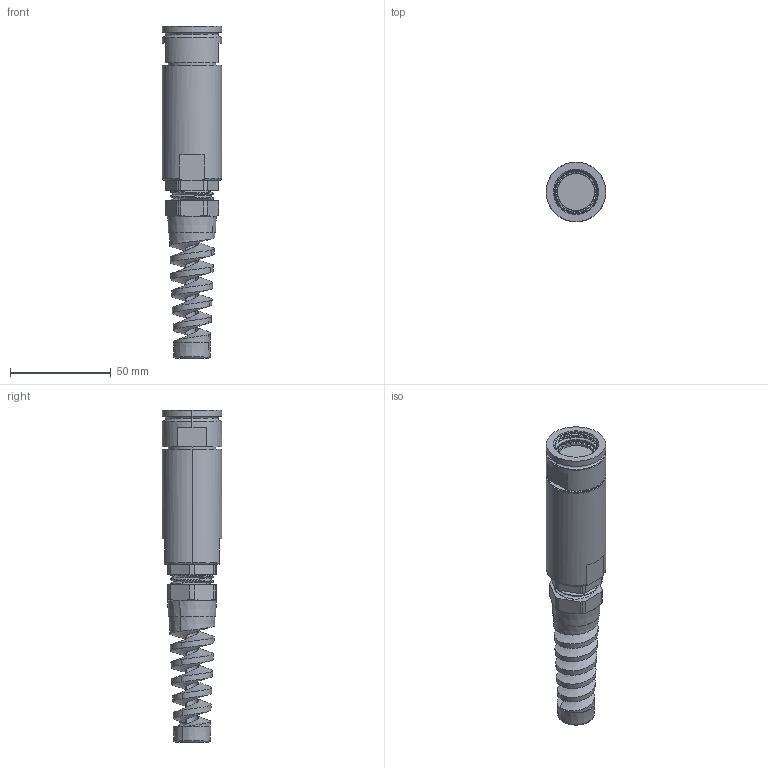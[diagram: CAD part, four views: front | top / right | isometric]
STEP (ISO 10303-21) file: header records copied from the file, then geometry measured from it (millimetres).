
FILE_DESCRIPTION (( 'STEP AP214' ), '1' );
FILE_NAME ('Q38SHELL-STX-15-XXXX-GB.STEP', '2025-09-09T22:14:07', ( '' ), ( '' ), 'SwSTEP 2.0', 'SolidWorks 2024', '' );
FILE_SCHEMA (( 'AUTOMOTIVE_DESIGN' ));
Length unit declared in the file: millimetre
Products named in the file (1): Q38SHELL-STX-15-XXXX-GB
Bounding box: 29.54 x 29.54 x 164.72 mm (x, y, z)
Volume: 69911.4 mm3; surface area: 20420.3 mm2
Topology: 2 solids, 2 shells, 263 faces, 834 edges, 589 vertices
Faces by surface type: plane 136, cylinder 69, cone 38, torus 13, bspline 7
Entity records: 14334 total; most frequent: CARTESIAN_POINT 7427, ORIENTED_EDGE 1668, DIRECTION 1235, EDGE_CURVE 834, VERTEX_POINT 589, AXIS2_PLACEMENT_3D 504, EDGE_LOOP 281, ADVANCED_FACE 263
